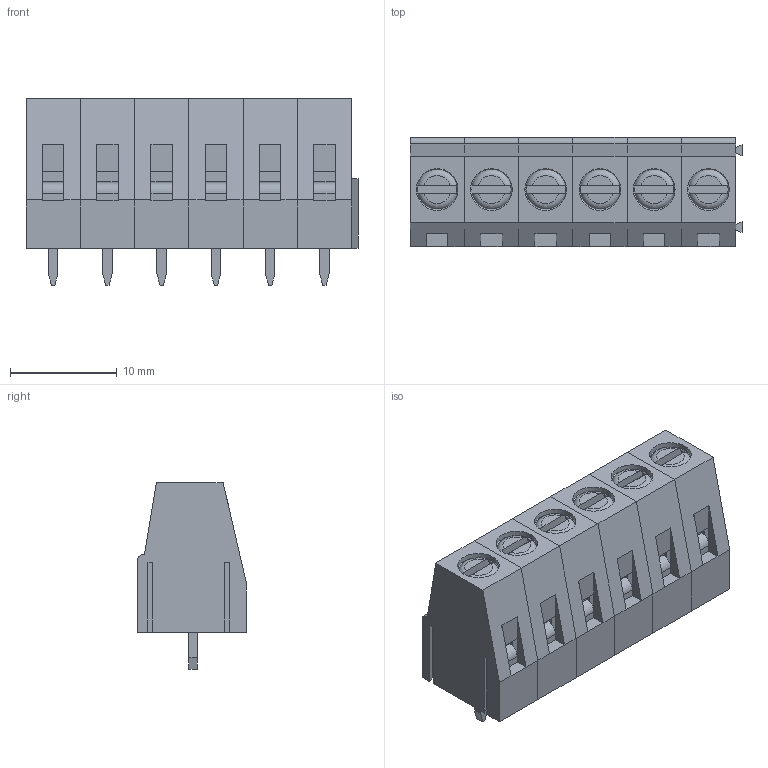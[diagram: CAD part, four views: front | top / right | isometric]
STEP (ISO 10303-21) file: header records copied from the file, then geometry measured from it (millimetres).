
FILE_DESCRIPTION (( 'STEP AP214' ), '1' );
FILE_NAME ('CONN-TH_6P-P5.08_DIBO_DB128V-5.08.STEP', '2024-05-21T06:15:40', ( '' ), ( '' ), 'SwSTEP 2.0', 'SolidWorks 2020', '' );
FILE_SCHEMA (( 'AUTOMOTIVE_DESIGN' ));
Length unit declared in the file: millimetre
Products named in the file (1): CONN-TH_6P-P5.08_DIBO_DB128V-5.08
Bounding box: 31.08 x 10.2 x 17.5 mm (x, y, z)
Volume: 2630.3 mm3; surface area: 6853.3 mm2
Topology: 18 solids, 18 shells, 1200 faces, 3315 edges, 2182 vertices
Faces by surface type: plane 922, cylinder 132, bspline 98, torus 48
Entity records: 51823 total; most frequent: CARTESIAN_POINT 8124, ORIENTED_EDGE 6630, DIRECTION 5657, EDGE_CURVE 3315, LINE 2731, VECTOR 2731, VERTEX_POINT 2182, AXIS2_PLACEMENT_3D 1463
